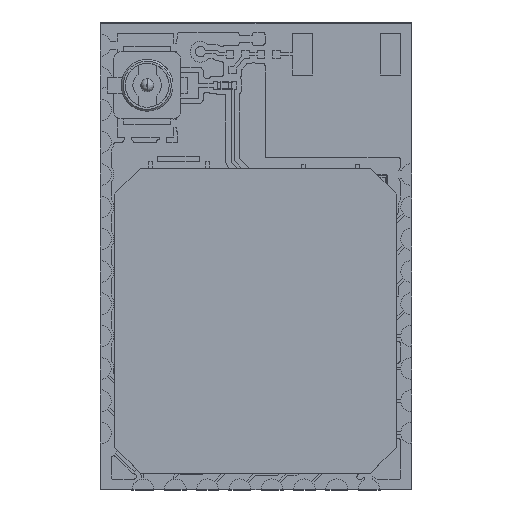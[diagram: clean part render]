
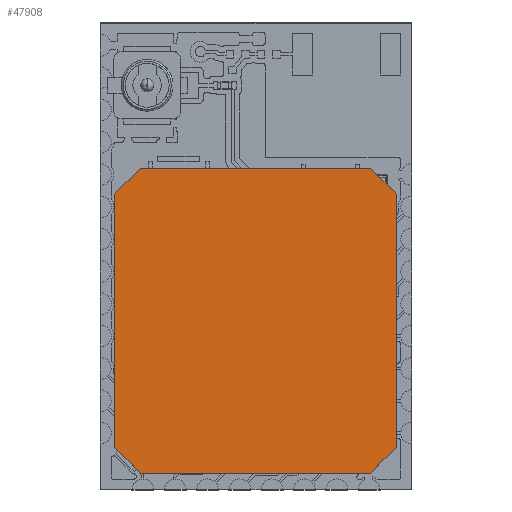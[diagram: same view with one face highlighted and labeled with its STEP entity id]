
A CAD part, top view. The second image highlights one B-rep face of the part: STEP entity #47908.
In plain terms, the highlighted planar face has unit normal (0, 0, 1).
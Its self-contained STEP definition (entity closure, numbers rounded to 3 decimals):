
#6500=FACE_OUTER_BOUND('',#9091,.T.);
#9091=EDGE_LOOP('',(#43246,#43247,#43248,#43249,#43250,#43251,#43252,#43253));
#13845=LINE('',#81911,#18720);
#13846=LINE('',#81913,#18721);
#13847=LINE('',#81915,#18722);
#13848=LINE('',#81917,#18723);
#13849=LINE('',#81919,#18724);
#13850=LINE('',#81921,#18725);
#13851=LINE('',#81923,#18726);
#13852=LINE('',#81924,#18727);
#18720=VECTOR('',#67533,1.);
#18721=VECTOR('',#67534,1.);
#18722=VECTOR('',#67535,1.);
#18723=VECTOR('',#67536,1.);
#18724=VECTOR('',#67537,1.);
#18725=VECTOR('',#67538,1.);
#18726=VECTOR('',#67539,1.);
#18727=VECTOR('',#67540,1.);
#23314=VERTEX_POINT('',#81909);
#23315=VERTEX_POINT('',#81910);
#23316=VERTEX_POINT('',#81912);
#23317=VERTEX_POINT('',#81914);
#23318=VERTEX_POINT('',#81916);
#23319=VERTEX_POINT('',#81918);
#23320=VERTEX_POINT('',#81920);
#23321=VERTEX_POINT('',#81922);
#29994=EDGE_CURVE('',#23314,#23315,#13845,.T.);
#29995=EDGE_CURVE('',#23315,#23316,#13846,.T.);
#29996=EDGE_CURVE('',#23316,#23317,#13847,.T.);
#29997=EDGE_CURVE('',#23317,#23318,#13848,.T.);
#29998=EDGE_CURVE('',#23318,#23319,#13849,.T.);
#29999=EDGE_CURVE('',#23319,#23320,#13850,.T.);
#30000=EDGE_CURVE('',#23320,#23321,#13851,.T.);
#30001=EDGE_CURVE('',#23321,#23314,#13852,.T.);
#43246=ORIENTED_EDGE('',*,*,#29994,.T.);
#43247=ORIENTED_EDGE('',*,*,#29995,.T.);
#43248=ORIENTED_EDGE('',*,*,#29996,.T.);
#43249=ORIENTED_EDGE('',*,*,#29997,.T.);
#43250=ORIENTED_EDGE('',*,*,#29998,.T.);
#43251=ORIENTED_EDGE('',*,*,#29999,.T.);
#43252=ORIENTED_EDGE('',*,*,#30000,.T.);
#43253=ORIENTED_EDGE('',*,*,#30001,.T.);
#45433=PLANE('',#53865);
#47908=ADVANCED_FACE('',(#6500),#45433,.T.);
#53865=AXIS2_PLACEMENT_3D('',#81908,#67531,#67532);
#67531=DIRECTION('center_axis',(0.,0.,1.));
#67532=DIRECTION('ref_axis',(1.,0.,0.));
#67533=DIRECTION('',(-0.707,-0.707,0.));
#67534=DIRECTION('',(0.,-1.,0.));
#67535=DIRECTION('',(0.707,-0.707,0.));
#67536=DIRECTION('',(1.,0.,0.));
#67537=DIRECTION('',(0.707,0.707,0.));
#67538=DIRECTION('',(0.,1.,0.));
#67539=DIRECTION('',(-0.707,0.707,0.));
#67540=DIRECTION('',(-1.,0.,0.));
#81908=CARTESIAN_POINT('Origin',(1.43,-0.33,1.3));
#81909=CARTESIAN_POINT('',(-3.02,5.57,1.3));
#81910=CARTESIAN_POINT('',(-4.02,4.57,1.3));
#81911=CARTESIAN_POINT('',(-3.52,5.07,1.3));
#81912=CARTESIAN_POINT('',(-4.02,-5.23,1.3));
#81913=CARTESIAN_POINT('',(-4.02,-0.33,1.3));
#81914=CARTESIAN_POINT('',(-3.02,-6.23,1.3));
#81915=CARTESIAN_POINT('',(-3.52,-5.73,1.3));
#81916=CARTESIAN_POINT('',(5.88,-6.23,1.3));
#81917=CARTESIAN_POINT('',(1.43,-6.23,1.3));
#81918=CARTESIAN_POINT('',(6.88,-5.23,1.3));
#81919=CARTESIAN_POINT('',(6.38,-5.73,1.3));
#81920=CARTESIAN_POINT('',(6.88,4.57,1.3));
#81921=CARTESIAN_POINT('',(6.88,-0.33,1.3));
#81922=CARTESIAN_POINT('',(5.88,5.57,1.3));
#81923=CARTESIAN_POINT('',(6.38,5.07,1.3));
#81924=CARTESIAN_POINT('',(1.43,5.57,1.3));
